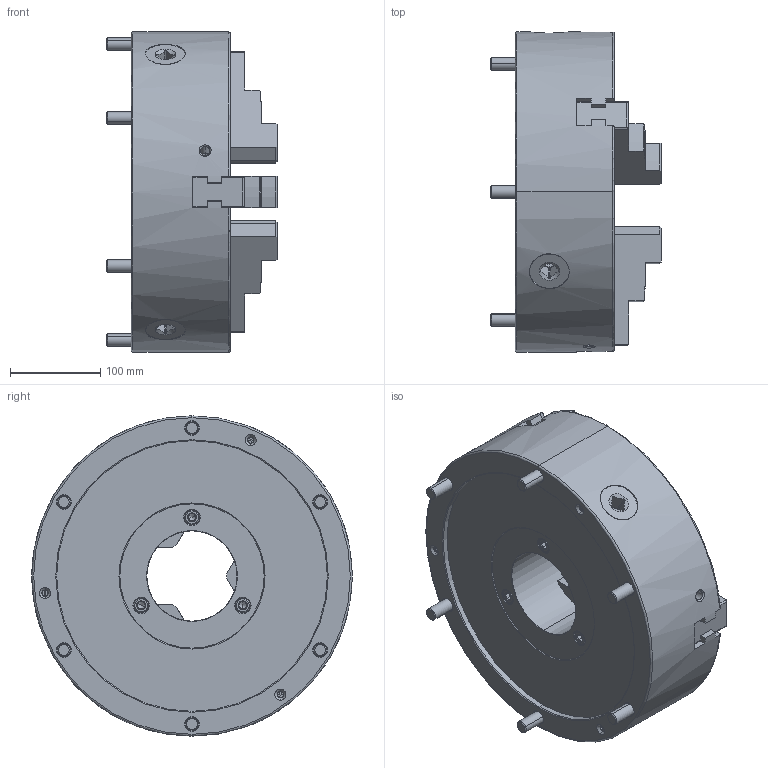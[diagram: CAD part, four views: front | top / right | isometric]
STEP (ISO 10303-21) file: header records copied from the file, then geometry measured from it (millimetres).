
FILE_DESCRIPTION (( 'STEP AP214' ), '1' );
FILE_NAME ('SC-14-103_61S219187-4.STEP', '2025-12-17T00:42:46', ( '' ), ( '' ), 'SwSTEP 2.0', 'SolidWorks 2022', '' );
FILE_SCHEMA (( 'AUTOMOTIVE_DESIGN' ));
Length unit declared in the file: millimetre
Products named in the file (4): SC-14-103_61S219187-4; SC-14-103_ホンタイ提出用; 0030114120; P30140-6_内ヅメ
Assembly tree (10 placements, depth 2):
  SC-14-103_61S219187-4
    P30140-6_内ヅメ  x3
    0030114120  x6
    SC-14-103_ホンタイ提出用
Bounding box: 189 x 355 x 355 mm (x, y, z)
Volume: 10002082.4 mm3; surface area: 573606 mm2
Topology: 10 solids, 10 shells, 1119 faces, 2956 edges, 1913 vertices
Faces by surface type: plane 589, bspline 222, cylinder 151, cone 143, torus 12, sphere 2
Entity records: 45786 total; most frequent: CARTESIAN_POINT 23429, ORIENTED_EDGE 5008, DIRECTION 3783, EDGE_CURVE 2504, VERTEX_POINT 1638, LINE 1529, VECTOR 1529, AXIS2_PLACEMENT_3D 1127
